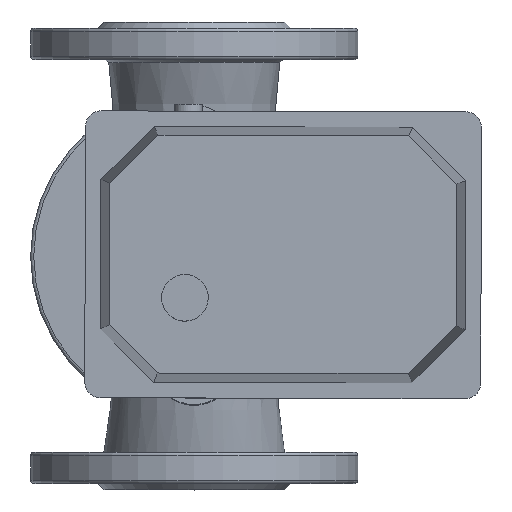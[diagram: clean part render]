
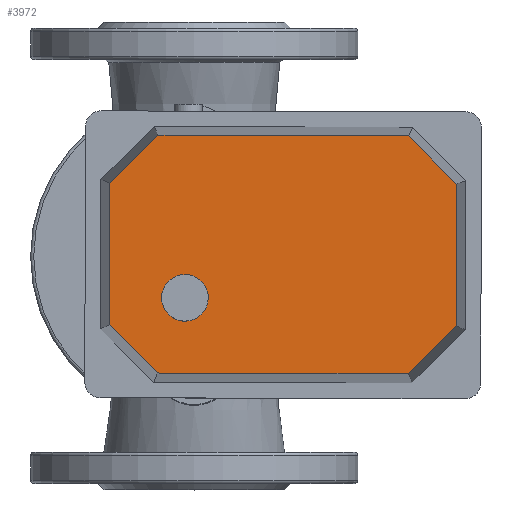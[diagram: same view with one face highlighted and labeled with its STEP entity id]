
A CAD part, top view. The second image highlights one B-rep face of the part: STEP entity #3972.
In plain terms, the highlighted planar face has unit normal (0, 0, 1) as drawn and (0, 0, -1) by its records, which use the part's own axes.
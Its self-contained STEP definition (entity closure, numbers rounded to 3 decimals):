
#307=LINE('',#7961,#625);
#308=LINE('',#7963,#626);
#309=LINE('',#7965,#627);
#310=LINE('',#7967,#628);
#311=LINE('',#7969,#629);
#312=LINE('',#7971,#630);
#313=LINE('',#7973,#631);
#314=LINE('',#7974,#632);
#625=VECTOR('',#5457,45.47);
#626=VECTOR('',#5458,21.754);
#627=VECTOR('',#5459,80.47);
#628=VECTOR('',#5460,21.754);
#629=VECTOR('',#5461,45.47);
#630=VECTOR('',#5462,21.754);
#631=VECTOR('',#5463,80.47);
#632=VECTOR('',#5464,21.754);
#847=PLANE('',#4379);
#992=FACE_BOUND('',#1590,.T.);
#1218=FACE_OUTER_BOUND('',#1589,.T.);
#1589=EDGE_LOOP('',(#3590,#3591,#3592,#3593,#3594,#3595,#3596,#3597));
#1590=EDGE_LOOP('',(#3598));
#1776=CIRCLE('',#4378,7.479);
#2128=VERTEX_POINT('',#7956);
#2129=VERTEX_POINT('',#7959);
#2130=VERTEX_POINT('',#7960);
#2131=VERTEX_POINT('',#7962);
#2132=VERTEX_POINT('',#7964);
#2133=VERTEX_POINT('',#7966);
#2134=VERTEX_POINT('',#7968);
#2135=VERTEX_POINT('',#7970);
#2136=VERTEX_POINT('',#7972);
#2624=EDGE_CURVE('',#2128,#2128,#1776,.T.);
#2625=EDGE_CURVE('',#2129,#2130,#307,.T.);
#2626=EDGE_CURVE('',#2130,#2131,#308,.T.);
#2627=EDGE_CURVE('',#2131,#2132,#309,.T.);
#2628=EDGE_CURVE('',#2132,#2133,#310,.T.);
#2629=EDGE_CURVE('',#2133,#2134,#311,.T.);
#2630=EDGE_CURVE('',#2134,#2135,#312,.T.);
#2631=EDGE_CURVE('',#2135,#2136,#313,.T.);
#2632=EDGE_CURVE('',#2136,#2129,#314,.T.);
#3590=ORIENTED_EDGE('',*,*,#2625,.T.);
#3591=ORIENTED_EDGE('',*,*,#2626,.T.);
#3592=ORIENTED_EDGE('',*,*,#2627,.T.);
#3593=ORIENTED_EDGE('',*,*,#2628,.T.);
#3594=ORIENTED_EDGE('',*,*,#2629,.T.);
#3595=ORIENTED_EDGE('',*,*,#2630,.T.);
#3596=ORIENTED_EDGE('',*,*,#2631,.T.);
#3597=ORIENTED_EDGE('',*,*,#2632,.T.);
#3598=ORIENTED_EDGE('',*,*,#2624,.T.);
#3972=ADVANCED_FACE('',(#1218,#992),#847,.T.);
#4378=AXIS2_PLACEMENT_3D('',#7957,#5453,#5454);
#4379=AXIS2_PLACEMENT_3D('',#7958,#5455,#5456);
#5453=DIRECTION('center_axis',(0.,0.,
1.));
#5454=DIRECTION('ref_axis',(-1.,-0.003,0.));
#5455=DIRECTION('center_axis',(0.,0.,-1.));
#5456=DIRECTION('ref_axis',(-1.,0.,0.));
#5457=DIRECTION('',(0.003,-1.,0.));
#5458=DIRECTION('',(-0.705,-0.709,0.));
#5459=DIRECTION('',(-1.,-0.003,0.));
#5460=DIRECTION('',(-0.709,0.705,0.));
#5461=DIRECTION('',(-0.003,1.,0.));
#5462=DIRECTION('',(0.705,0.709,0.));
#5463=DIRECTION('',(1.,0.003,0.));
#5464=DIRECTION('',(0.709,-0.705,0.));
#7956=CARTESIAN_POINT('',(878.356,655.965,-776.225));
#7957=CARTESIAN_POINT('Origin',(870.877,655.945,-776.225));
#7958=CARTESIAN_POINT('Origin',(839.394,631.641,-776.225));
#7959=CARTESIAN_POINT('',(894.952,692.743,-776.225));
#7960=CARTESIAN_POINT('',(895.07,647.273,-776.225));
#7961=CARTESIAN_POINT('',(894.952,692.743,-776.225));
#7962=CARTESIAN_POINT('',(879.728,631.851,-776.225));
#7963=CARTESIAN_POINT('',(895.07,647.273,-776.225));
#7964=CARTESIAN_POINT('',(799.258,631.641,-776.225));
#7965=CARTESIAN_POINT('',(879.728,631.851,-776.225));
#7966=CARTESIAN_POINT('',(783.835,646.984,-776.225));
#7967=CARTESIAN_POINT('',(799.258,631.641,-776.225));
#7968=CARTESIAN_POINT('',(783.717,692.454,-776.225));
#7969=CARTESIAN_POINT('',(783.835,646.984,-776.225));
#7970=CARTESIAN_POINT('',(799.06,707.876,-776.225));
#7971=CARTESIAN_POINT('',(783.717,692.454,-776.225));
#7972=CARTESIAN_POINT('',(879.529,708.085,-776.225));
#7973=CARTESIAN_POINT('',(799.06,707.876,-776.225));
#7974=CARTESIAN_POINT('',(879.529,708.085,-776.225));
